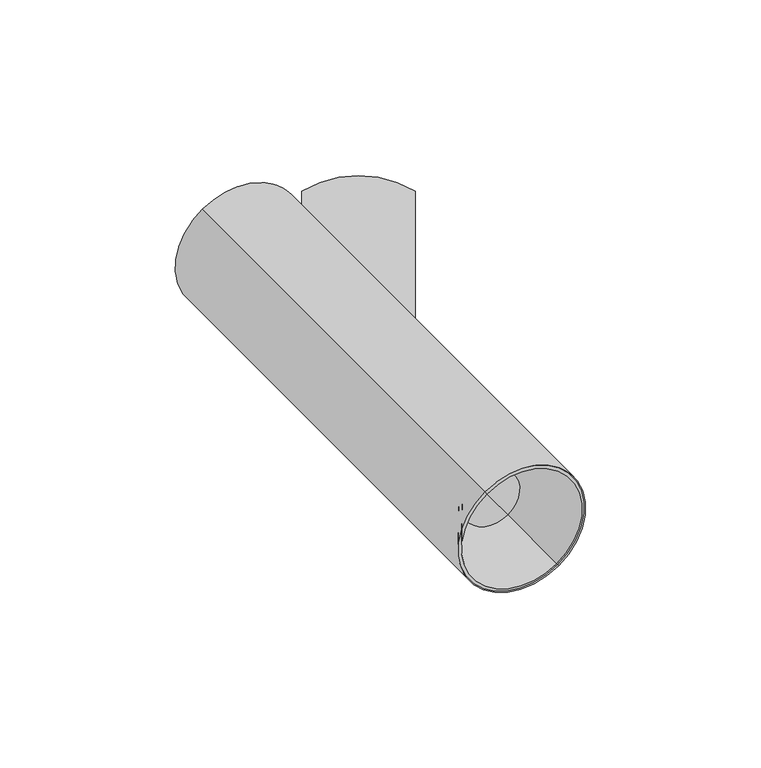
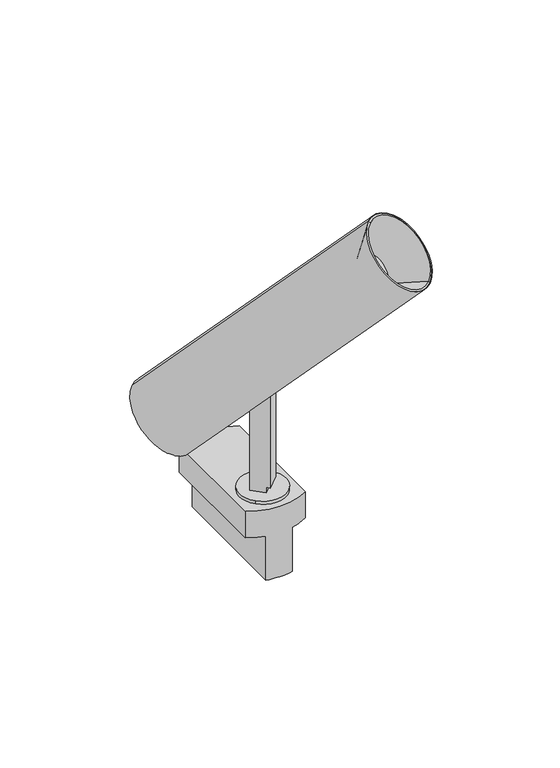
"""IFC4 building model written with IfcOpenShell, lengths in millimetres: light fixture geometry, PIPES T XS : 490lm 7,8W 930 38°."""

from ifc_helpers import new_model, si_unit, point, frame, frame_2d, origin, origin_2d, place, context, project, spatial, polyline, circle_curve, trimmed, segment, composite_curve, outline, extrude, source, transform, mapped, element, save
from ifc_brep_helpers import plane_surface, cylinder_surface, revolved_surface, advanced_brep


def light_fixture_a5907969(model_context):
    return source(origin(), model_context, "Body", "SolidModel", [
        extrude(outline(composite_curve([segment(polyline([(39.7303383, 0.0), (39.7303383, -7.9999999), (36.7303383, -7.9999999), (36.7303383, -10.0), (-21.31827, -10.0), (-21.31827, -2.0000001)]), True, "CONTINUOUS"), segment(trimmed(circle_curve(frame_2d((-15.691322, -2.0000001)), 5.626948), [point((-21.31827, -2.0000001))], [point((-15.691322, 3.626948))], False, "CARTESIAN"), True, "CONTINUOUS"), segment(polyline([(-15.691322, 3.626948), (-9.8735653, 3.626948)]), True, "CONTINUOUS"), segment(trimmed(circle_curve(frame_2d((-17.7182036, -2.2388678)), 9.7952104), [point((-9.8735653, 3.626948))], [point((-8.1822916, 0.0))], False, "CARTESIAN"), True, "CONTINUOUS"), segment(polyline([(-8.1822916, 0.0), (39.7303383, 0.0)]), True, "CONTINUOUS")], self_intersect=False)), frame((-7.0710678, 0.0, 56.5303383), z_axis=(0.7071067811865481, 0.707106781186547, 0.0), x_axis=(0.0, 0.0, -1.0)), (0.0, 0.0, 1.0), 10.0),
        extrude(outline(composite_curve([segment(trimmed(circle_curve(origin_2d(), 12.5), [point((8.8388348, 8.8388348))], [point((-8.8388348, -8.8388348))], False, "CARTESIAN"), True, "CONTINUOUS"), segment(trimmed(circle_curve(origin_2d(), 12.5), [point((-8.8388348, -8.8388348))], [point((8.8388348, 8.8388348))], False, "CARTESIAN"), True, "CONTINUOUS")], self_intersect=False)), frame((0.0, 0.0, 15.0), z_axis=(0.0, 0.0, 1.0), x_axis=(1.0, 0.0, 0.0)), (0.0, 0.0, 1.0), 1.8),
        advanced_brep(
        [(-7.1153658, -15.2862846, -25.0), (-7.1153658, 53.3498174, -25.0), (7.1153658, 53.3498174, -25.0), (7.1153658, -15.2862846, -25.0), (-16.1153658, 49.7317664, 15.0), (-16.1153658, -11.6682336, 15.0), (16.1153658, -11.6682336, 15.0), (16.1153658, 49.7317664, 15.0), (-16.1153658, 49.7317664, 0.0), (-16.1153658, -11.6682336, 0.0), (-7.1153658, -15.2862846, 0.0), (7.1153658, -15.2862846, 0.0), (16.1153658, -11.6682336, 0.0), (16.1153658, 49.7317664, 0.0), (7.1153658, 53.3498174, 0.0), (-7.1153658, 53.3498174, 0.0)],
        [
            (0, 1),
            (1, 2, circle_curve(frame((0.0, 22.6472542, -25.0), z_axis=(0.0, 0.0, -1.0), x_axis=(1.0, 0.0, 0.0)), 31.5162786)),
            (2, 3),
            (3, 0, circle_curve(frame((0.0, 15.4162786, -25.0), z_axis=(0.0, 0.0, -1.0), x_axis=(1.0, 0.0, 0.0)), 31.5162786)),
            (4, 5),
            (5, 6, circle_curve(frame((0.0, 15.4162786, 15.0), z_axis=(0.0, 0.0, 1.0), x_axis=(1.0, 0.0, 0.0)), 31.5162786)),
            (6, 7),
            (7, 4, circle_curve(frame((0.0, 22.6472542, 15.0), z_axis=(0.0, 0.0, 1.0), x_axis=(1.0, 0.0, 0.0)), 31.5162786)),
            (4, 8),
            (8, 9),
            (9, 5),
            (9, 10, circle_curve(frame((0.0, 15.4162786, 0.0), z_axis=(0.0, 0.0, 1.0), x_axis=(1.0, 0.0, 0.0)), 31.5162786)),
            (10, 0),
            (3, 11),
            (11, 12, circle_curve(frame((0.0, 15.4162786, 0.0), z_axis=(0.0, 0.0, 1.0), x_axis=(1.0, 0.0, 0.0)), 31.5162786)),
            (12, 6),
            (12, 13),
            (13, 7),
            (13, 14, circle_curve(frame((0.0, 22.6472542, 0.0), z_axis=(0.0, 0.0, 1.0), x_axis=(1.0, 0.0, 0.0)), 31.5162786)),
            (14, 2),
            (1, 15),
            (15, 8, circle_curve(frame((0.0, 22.6472542, 0.0), z_axis=(0.0, 0.0, 1.0), x_axis=(1.0, 0.0, 0.0)), 31.5162786)),
            (15, 10),
            (11, 14),
        ],
        [
            plane_surface(frame((-16.1153658, -11.6883244, -25.0), z_axis=(0.0, 0.0, -1.0), x_axis=(0.0, 1.0, 0.0))),
            plane_surface(frame((-16.1153658, -11.6883244, 15.0), z_axis=(0.0, 0.0, 1.0), x_axis=(0.0, -1.0, 0.0))),
            plane_surface(frame((-16.1153658, 49.7317664, 15.0), z_axis=(-1.0, 0.0, 0.0), x_axis=(0.0, 0.0, -1.0))),
            cylinder_surface(frame((0.0, 15.4162786, -25.0), z_axis=(0.0, 0.0, 1.0), x_axis=(1.0, 0.0, 0.0)), 31.5162786),
            plane_surface(frame((16.1153658, -11.6682336, 15.0), z_axis=(1.0, 0.0, 0.0), x_axis=(0.0, 0.0, -1.0))),
            cylinder_surface(frame((0.0, 22.6472542, -25.0), z_axis=(0.0, 0.0, 1.0), x_axis=(1.0, 0.0, 0.0)), 31.5162786),
            plane_surface(frame((-7.1153658, 58.6979838, 0.0), z_axis=(0.0, 0.0, -1.0), x_axis=(-1.0, 0.0, 0.0))),
            plane_surface(frame((-7.1153658, -21.3020162, 0.0), z_axis=(-1.0, 0.0, 0.0), x_axis=(0.0, 0.0, -1.0))),
            plane_surface(frame((7.1153658, -11.6883244, 0.0), z_axis=(0.0, 0.0, -1.0), x_axis=(0.0, -1.0, 0.0))),
            plane_surface(frame((7.1153658, 58.6979838, 0.0), z_axis=(1.0, 0.0, 0.0), x_axis=(0.0, 0.0, -1.0))),
        ],
        [
            (0, [[1, 2, 3, 4]]),
            (1, [[5, 6, 7, 8]]),
            (2, [[-5, 9, 10, 11]]),
            (3, [[-6, -11, 12, 13, -4, 14, 15, 16]]),
            (4, [[-7, -16, 17, 18]]),
            (5, [[-8, -18, 19, 20, -2, 21, 22, -9]]),
            (6, [[23, -12, -10, -22]]),
            (7, [[-23, -21, -1, -13]]),
            (8, [[24, -19, -17, -15]]),
            (9, [[-24, -14, -3, -20]]),
        ],
    ),
        advanced_brep(
        [(3.5355339, 3.5355339, 80.0710678), (-21.9644661, 29.0355339, 44.008622), (-18.2993147, 25.3703825, 38.8253152), (-21.2993147, 28.3703825, 34.5826745), (-20.2664271, 27.3374949, 33.1219508), (8.2335729, -1.1625051, 73.4270373), (-3.5355339, -3.5355339, 80.0710678), (1.1625051, -8.2335729, 73.4270373), (-27.3374949, 20.2664271, 33.1219508), (-28.3703825, 21.2993147, 34.5826745), (-25.3703825, 18.2993147, 38.8253152), (-29.0355339, 21.9644661, 44.008622), (-25.5, 25.5, 44.008622), (5.0, -5.0, 73.0), (57.0, -57.0, 146.5391052), (36.0, -36.0, 176.2375901), (-44.5, 44.5, 62.3933983), (-43.5, 43.5, 60.9791847), (-40.5, 40.5, 65.2218254), (-31.0, 31.0, 51.7867966), (32.25, -32.25, 155.37794), (42.25, -42.25, 141.2358044), (37.25, -37.25, 148.3068722)],
        [
            (0, 1),
            (1, 2),
            (2, 3),
            (3, 4),
            (4, 5),
            (5, 0),
            (6, 7),
            (7, 8),
            (8, 9),
            (9, 10),
            (10, 11),
            (11, 6),
            (0, 6),
            (11, 12),
            (12, 1),
            (5, 13, circle_curve(frame((-5.5, 5.5, 87.8492424), z_axis=(-0.5000000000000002, 0.4999999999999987, -0.7071067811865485), x_axis=(0.49999999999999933, -0.5000000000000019, -0.7071067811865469)), 21.0)),
            (13, 7, circle_curve(frame((-5.5, 5.5, 87.8492424), z_axis=(-0.5000000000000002, 0.4999999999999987, -0.7071067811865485), x_axis=(0.49999999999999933, -0.5000000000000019, -0.7071067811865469)), 21.0)),
            (14, 15, circle_curve(frame((46.5, -46.5, 161.3883476), z_axis=(-0.5000000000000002, 0.4999999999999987, -0.7071067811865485), x_axis=(0.49999999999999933, -0.5000000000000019, -0.7071067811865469)), 21.0)),
            (15, 16),
            (16, 8, circle_curve(frame((-34.0, 34.0, 47.5441559), z_axis=(0.5000000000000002, -0.4999999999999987, 0.7071067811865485), x_axis=(0.49999999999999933, -0.5000000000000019, -0.7071067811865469)), 21.0)),
            (13, 14),
            (15, 14, circle_curve(frame((46.5, -46.5, 161.3883476), z_axis=(-0.5000000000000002, 0.4999999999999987, -0.7071067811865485), x_axis=(0.49999999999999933, -0.5000000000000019, -0.7071067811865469)), 21.0)),
            (4, 16, circle_curve(frame((-34.0, 34.0, 47.5441559), z_axis=(0.5000000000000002, -0.4999999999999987, 0.7071067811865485), x_axis=(0.49999999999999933, -0.5000000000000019, -0.7071067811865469)), 21.0)),
            (16, 17),
            (17, 9, circle_curve(frame((-34.0, 34.0, 47.5441559), z_axis=(0.5000000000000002, -0.4999999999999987, 0.7071067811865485), x_axis=(0.49999999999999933, -0.5000000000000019, -0.7071067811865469)), 19.0)),
            (3, 17, circle_curve(frame((-34.0, 34.0, 47.5441559), z_axis=(0.5000000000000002, -0.4999999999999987, 0.7071067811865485), x_axis=(0.49999999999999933, -0.5000000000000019, -0.7071067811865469)), 19.0)),
            (17, 18),
            (18, 10, circle_curve(frame((-31.0, 31.0, 51.7867966), z_axis=(0.5000000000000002, -0.4999999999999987, 0.7071067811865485), x_axis=(0.49999999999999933, -0.5000000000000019, -0.7071067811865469)), 19.0)),
            (2, 18, circle_curve(frame((-31.0, 31.0, 51.7867966), z_axis=(0.5000000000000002, -0.4999999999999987, 0.7071067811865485), x_axis=(0.49999999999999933, -0.5000000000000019, -0.7071067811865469)), 19.0)),
            (18, 19),
            (19, 12),
            (20, 21, circle_curve(frame((37.25, -37.25, 148.3068722), z_axis=(0.5000000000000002, -0.4999999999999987, 0.7071067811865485), x_axis=(0.49999999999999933, -0.5000000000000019, -0.7071067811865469)), 10.0)),
            (21, 22),
            (22, 20),
            (21, 20, circle_curve(frame((37.25, -37.25, 148.3068722), z_axis=(0.5000000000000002, -0.4999999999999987, 0.7071067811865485), x_axis=(0.49999999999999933, -0.5000000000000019, -0.7071067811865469)), 10.0)),
            (14, 21),
            (20, 15),
        ],
        [
            plane_surface(frame((3.5355339, 3.5355339, 80.0710678), z_axis=(-0.7071067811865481, -0.707106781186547, 0.0), x_axis=(0.5000000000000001, -0.4999999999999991, 0.7071067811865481))),
            plane_surface(frame((-3.5355339, -3.5355339, 80.0710678), z_axis=(0.7071067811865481, 0.707106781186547, 0.0), x_axis=(-0.5000000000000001, 0.4999999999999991, -0.7071067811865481))),
            plane_surface(frame((-3.5355339, -3.5355339, 80.0710678), z_axis=(0.5000000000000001, -0.5000000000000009, -0.707106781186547), x_axis=(0.7071067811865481, 0.707106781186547, 0.0))),
            plane_surface(frame((6.4644661, -13.5355339, 65.9289322), z_axis=(-0.5000000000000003, 0.49999999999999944, -0.7071067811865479), x_axis=(0.7071067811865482, 0.7071067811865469, 0.0))),
            cylinder_surface(frame((-38.2261905, 38.2261905, 41.56742), z_axis=(-0.5000000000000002, 0.4999999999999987, -0.7071067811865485), x_axis=(0.49999999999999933, -0.5000000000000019, -0.7071067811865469)), 21.0),
            plane_surface(frame((-34.0, 34.0, 47.5441559), z_axis=(-0.5, 0.499999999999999, -0.7071067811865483), x_axis=(0.4999999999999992, -0.5000000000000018, -0.7071067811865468))),
            revolved_surface(polyline([(-24.50000002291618, 24.50000002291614, 34.109127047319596), (-21.499999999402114, 21.499999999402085, 38.35176776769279)]), (-38.2261905, 38.2261905, 41.56742), (-0.5000000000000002, 0.4999999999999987, -0.7071067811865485)),
            revolved_surface(polyline([(-24.50000002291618, 24.50000002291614, 34.109127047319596), (-21.49999999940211, 21.499999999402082, 38.3517677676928)]), (-38.2261905, 38.2261905, 41.56742), (-0.5000000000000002, 0.4999999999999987, -0.7071067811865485)),
            plane_surface(frame((-31.0, 31.0, 51.7867966), z_axis=(-0.5, 0.499999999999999, -0.7071067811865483), x_axis=(0.4999999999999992, -0.5000000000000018, -0.7071067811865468))),
            plane_surface(frame((37.25, -37.25, 148.3068722), z_axis=(0.5, -0.499999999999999, 0.7071067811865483), x_axis=(0.4999999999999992, -0.5000000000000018, -0.7071067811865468))),
            revolved_surface(polyline([(42.25, -42.25, 141.2358044), (57.0, -57.0, 146.5391052)]), (-38.2261905, 38.2261905, 41.56742), (-0.5000000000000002, 0.4999999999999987, -0.7071067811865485)),
        ],
        [
            (0, [[1, 2, 3, 4, 5, 6]]),
            (1, [[7, 8, 9, 10, 11, 12]]),
            (2, [[13, -12, 14, 15, -1]]),
            (3, [[-13, -6, 16, 17, -7]]),
            (4, [[18, 19, 20, -8, -17, 21]]),
            (4, [[-19, 22, -21, -16, -5, 23]]),
            (5, [[24, 25, -9, -20]]),
            (5, [[-24, -23, -4, 26]]),
            (6, [[27, 28, -10, -25]]),
            (7, [[-27, -26, -3, 29]]),
            (8, [[30, 31, -14, -11, -28]]),
            (8, [[-30, -29, -2, -15, -31]]),
            (9, [[32, 33, 34]]),
            (9, [[-33, 35, -34]]),
            (10, [[-18, 36, -32, 37]]),
            (10, [[-22, -37, -35, -36]]),
        ],
    ),
        advanced_brep(
        [(-23.9644661, 31.0355339, 41.1801948), (-24.9644661, 32.0355339, 39.7659813), (-22.3437531, 29.4148209, 36.0597335), (-21.3437531, 28.4148209, 37.473947), (-32.0355339, 24.9644661, 39.7659813), (-31.0355339, 23.9644661, 41.1801948), (-28.4148209, 21.3437531, 37.473947), (-29.4148209, 22.3437531, 36.0597335), (-27.5, 27.5, 41.1801948), (-28.5, 28.5, 39.7659813), (-33.0, 33.0, 48.9583694), (-41.4968217, 41.4968217, 60.9746899), (-42.4968217, 42.4968217, 59.5604764), (-34.0, 34.0, 47.5441559)],
        [
            (0, 1),
            (1, 2),
            (2, 3),
            (3, 0),
            (4, 5),
            (5, 6),
            (6, 7),
            (7, 4),
            (0, 8),
            (8, 5),
            (4, 9),
            (9, 1),
            (10, 11),
            (11, 6, circle_curve(frame((-33.0, 33.0, 48.9583694), z_axis=(0.4999999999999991, -0.4999999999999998, 0.7071067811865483), x_axis=(0.4999999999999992, -0.5000000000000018, -0.7071067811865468)), 16.9936434)),
            (8, 10),
            (3, 11, circle_curve(frame((-33.0, 33.0, 48.9583694), z_axis=(0.4999999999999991, -0.4999999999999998, 0.7071067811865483), x_axis=(0.4999999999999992, -0.5000000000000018, -0.7071067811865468)), 16.9936434)),
            (11, 12),
            (12, 7, circle_curve(frame((-34.0, 34.0, 47.5441559), z_axis=(0.4999999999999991, -0.4999999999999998, 0.7071067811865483), x_axis=(0.4999999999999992, -0.5000000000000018, -0.7071067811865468)), 16.9936434)),
            (2, 12, circle_curve(frame((-34.0, 34.0, 47.5441559), z_axis=(0.4999999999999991, -0.4999999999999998, 0.7071067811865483), x_axis=(0.4999999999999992, -0.5000000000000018, -0.7071067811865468)), 16.9936434)),
            (12, 13),
            (13, 9),
        ],
        [
            plane_surface(frame((3.5355339, 3.5355339, 80.0710678), z_axis=(-0.7071067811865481, -0.707106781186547, 0.0), x_axis=(0.5000000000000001, -0.4999999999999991, 0.7071067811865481))),
            plane_surface(frame((-3.5355339, -3.5355339, 80.0710678), z_axis=(0.7071067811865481, 0.707106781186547, 0.0), x_axis=(-0.5000000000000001, 0.4999999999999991, -0.7071067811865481))),
            plane_surface(frame((-3.5355339, -3.5355339, 80.0710678), z_axis=(0.5000000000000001, -0.5000000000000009, -0.707106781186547), x_axis=(0.7071067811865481, 0.707106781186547, 0.0))),
            plane_surface(frame((-33.0, 33.0, 48.9583694), z_axis=(0.5, -0.499999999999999, 0.7071067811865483), x_axis=(0.4999999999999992, -0.5000000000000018, -0.7071067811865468))),
            cylinder_surface(frame((32.0238095, -32.0238095, 140.9159227), z_axis=(-0.4999999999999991, 0.4999999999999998, -0.7071067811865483), x_axis=(0.4999999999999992, -0.5000000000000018, -0.7071067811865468)), 16.9936434),
            plane_surface(frame((-34.0, 34.0, 47.5441559), z_axis=(-0.5, 0.499999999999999, -0.7071067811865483), x_axis=(0.4999999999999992, -0.5000000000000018, -0.7071067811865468))),
        ],
        [
            (0, [[1, 2, 3, 4]]),
            (1, [[5, 6, 7, 8]]),
            (2, [[-1, 9, 10, -5, 11, 12]]),
            (3, [[13, 14, -6, -10, 15]]),
            (3, [[-13, -15, -9, -4, 16]]),
            (4, [[17, 18, -7, -14]]),
            (4, [[-17, -16, -3, 19]]),
            (5, [[20, 21, -11, -8, -18]]),
            (5, [[-20, -19, -2, -12, -21]]),
        ],
    ),
        advanced_brep(
        [(33.034412, -33.034412, 155.6828275), (42.465588, -42.465588, 142.3451304), (37.75, -37.75, 149.013979), (36.5817093, -36.5817093, 175.4149289), (56.4182907, -56.4182907, 147.3617664), (36.0, -36.0, 176.2375901), (57.0, -57.0, 146.5391052), (32.25, -32.25, 155.37794), (42.25, -42.25, 141.2358044), (37.25, -37.25, 148.3068722)],
        [
            (0, 1, circle_curve(frame((37.75, -37.75, 149.013979), z_axis=(0.5000000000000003, -0.49999999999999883, 0.7071067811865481), x_axis=(0.4999999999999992, -0.5000000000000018, -0.7071067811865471)), 9.431176)),
            (1, 2),
            (2, 0),
            (1, 0, circle_curve(frame((37.75, -37.75, 149.013979), z_axis=(0.5000000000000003, -0.49999999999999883, 0.7071067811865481), x_axis=(0.4999999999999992, -0.5000000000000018, -0.7071067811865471)), 9.431176)),
            (3, 4, circle_curve(frame((46.5, -46.5, 161.3883476), z_axis=(0.5000000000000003, -0.49999999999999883, 0.7071067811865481), x_axis=(0.4999999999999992, -0.5000000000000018, -0.7071067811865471)), 19.8365814)),
            (4, 1),
            (0, 3),
            (4, 3, circle_curve(frame((46.5, -46.5, 161.3883476), z_axis=(0.5000000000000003, -0.49999999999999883, 0.7071067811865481), x_axis=(0.4999999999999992, -0.5000000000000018, -0.7071067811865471)), 19.8365814)),
            (5, 6, circle_curve(frame((46.5, -46.5, 161.3883476), z_axis=(0.5000000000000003, -0.49999999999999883, 0.7071067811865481), x_axis=(0.4999999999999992, -0.5000000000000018, -0.7071067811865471)), 21.0)),
            (6, 4),
            (3, 5),
            (6, 5, circle_curve(frame((46.5, -46.5, 161.3883476), z_axis=(0.5000000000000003, -0.49999999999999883, 0.7071067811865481), x_axis=(0.4999999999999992, -0.5000000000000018, -0.7071067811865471)), 21.0)),
            (7, 8, circle_curve(frame((37.25, -37.25, 148.3068722), z_axis=(0.5000000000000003, -0.49999999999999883, 0.7071067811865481), x_axis=(0.4999999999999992, -0.5000000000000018, -0.7071067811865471)), 10.0)),
            (8, 6),
            (5, 7),
            (8, 7, circle_curve(frame((37.25, -37.25, 148.3068722), z_axis=(0.5000000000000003, -0.49999999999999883, 0.7071067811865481), x_axis=(0.4999999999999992, -0.5000000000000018, -0.7071067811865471)), 10.0)),
            (9, 8),
            (7, 9),
        ],
        [
            plane_surface(frame((37.75, -37.75, 149.013979), z_axis=(0.5000000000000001, -0.4999999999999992, 0.7071067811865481), x_axis=(0.4999999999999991, -0.5000000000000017, -0.707106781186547))),
            revolved_surface(polyline([(42.465588, -42.465588, 142.3451304), (56.4182907, -56.4182907, 147.3617664)]), (-48.2261905, 48.2261905, 27.4252844), (-0.5000000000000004, 0.49999999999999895, -0.7071067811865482)),
            plane_surface(frame((46.5, -46.5, 161.3883476), z_axis=(0.5000000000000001, -0.4999999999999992, 0.7071067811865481), x_axis=(0.4999999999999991, -0.5000000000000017, -0.707106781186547))),
            revolved_surface(polyline([(57.0, -57.0, 146.5391052), (42.25, -42.25, 141.2358044)]), (-48.2261905, 48.2261905, 27.4252844), (-0.5000000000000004, 0.49999999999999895, -0.7071067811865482)),
            plane_surface(frame((37.25, -37.25, 148.3068722), z_axis=(-0.5000000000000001, 0.4999999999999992, -0.7071067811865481), x_axis=(0.4999999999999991, -0.5000000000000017, -0.707106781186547))),
        ],
        [
            (0, [[1, 2, 3]]),
            (0, [[4, -3, -2]]),
            (1, [[5, 6, -1, 7]]),
            (1, [[8, -7, -4, -6]]),
            (2, [[9, 10, -5, 11]]),
            (2, [[12, -11, -8, -10]]),
            (3, [[13, 14, -9, 15]]),
            (3, [[16, -15, -12, -14]]),
            (4, [[17, -13, 18]]),
            (4, [[-18, -16, -17]]),
        ],
    ),
    ])


if __name__ == "__main__":
    model = new_model("IFC4")
    model_context = context("Model", 3, world=origin())
    ifc_project = project(units=[si_unit("LENGTHUNIT", "METRE", prefix="MILLI")], contexts=[model_context])
    site = spatial("IfcSite", under=ifc_project)
    building = spatial("IfcBuilding", under=site)
    placement = place(None, origin())
    light_fixture_shape = light_fixture_a5907969(model_context)
    element("IfcLightFixture", 1, ObjectType="PIPES T XS : 490lm 7,8W 930 38°", at=placement, inside=building, context=model_context, shape_type="MappedRepresentation", body=[
        mapped(light_fixture_shape, transform((0.0, 0.0, 0.0), x_axis=(1.0, 0.0, 0.0), y_axis=(0.0, 1.0, 0.0), z_axis=(0.0, 0.0, 1.0))),
    ])
    save(model, "model.ifc")
